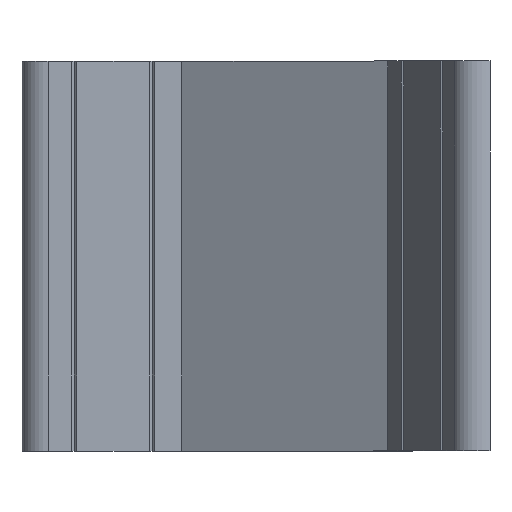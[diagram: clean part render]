
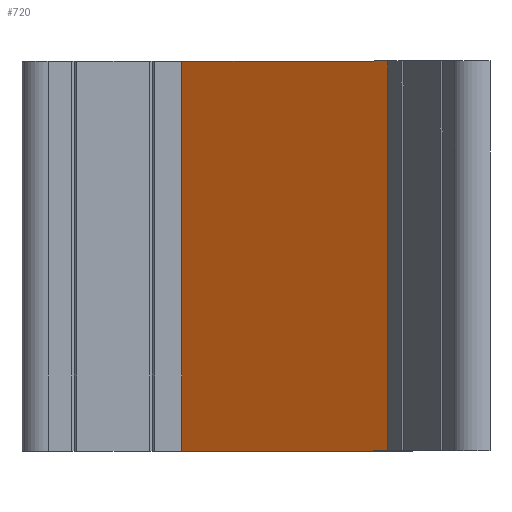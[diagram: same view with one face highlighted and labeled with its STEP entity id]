
A CAD part, top view. The second image highlights one B-rep face of the part: STEP entity #720.
In plain terms, the highlighted planar face has unit normal (-0.5, 0, 0.866).
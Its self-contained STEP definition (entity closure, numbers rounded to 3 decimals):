
#142=ORIENTED_EDGE('',*,*,#292,.T.);
#143=ORIENTED_EDGE('',*,*,#312,.F.);
#144=ORIENTED_EDGE('',*,*,#246,.F.);
#145=ORIENTED_EDGE('',*,*,#305,.T.);
#246=EDGE_CURVE('',#348,#349,#415,.T.);
#292=EDGE_CURVE('',#391,#390,#458,.T.);
#305=EDGE_CURVE('',#348,#391,#471,.T.);
#312=EDGE_CURVE('',#349,#390,#478,.T.);
#348=VERTEX_POINT('',#1010);
#349=VERTEX_POINT('',#1012);
#390=VERTEX_POINT('',#1100);
#391=VERTEX_POINT('',#1102);
#415=LINE('',#1011,#513);
#458=LINE('',#1101,#556);
#471=LINE('',#1125,#569);
#478=LINE('',#1136,#576);
#513=VECTOR('',#818,1000.);
#556=VECTOR('',#871,1000.);
#569=VECTOR('',#888,1000.);
#576=VECTOR('',#903,1000.);
#612=EDGE_LOOP('',(#142,#143,#144,#145));
#650=FACE_BOUND('',#612,.T.);
#686=PLANE('',#773);
#720=ADVANCED_FACE('',(#650),#686,.F.);
#773=AXIS2_PLACEMENT_3D('',#1149,#920,#921);
#818=DIRECTION('',(-0.866,0.,-0.5));
#871=DIRECTION('',(-0.866,0.,-0.5));
#888=DIRECTION('',(0.,1.,0.));
#903=DIRECTION('',(0.,1.,0.));
#920=DIRECTION('',(0.5,0.,-0.866));
#921=DIRECTION('',(-0.866,0.,-0.5));
#1010=CARTESIAN_POINT('',(10.304,-37.5,27.847));
#1011=CARTESIAN_POINT('',(10.304,-37.5,27.847));
#1012=CARTESIAN_POINT('',(-29.268,-37.5,5.));
#1100=CARTESIAN_POINT('',(-29.268,37.5,5.));
#1101=CARTESIAN_POINT('',(10.304,37.5,27.847));
#1102=CARTESIAN_POINT('',(10.304,37.5,27.847));
#1125=CARTESIAN_POINT('',(10.304,-37.5,27.847));
#1136=CARTESIAN_POINT('',(-29.268,-37.5,5.));
#1149=CARTESIAN_POINT('',(10.304,-37.5,27.847));
